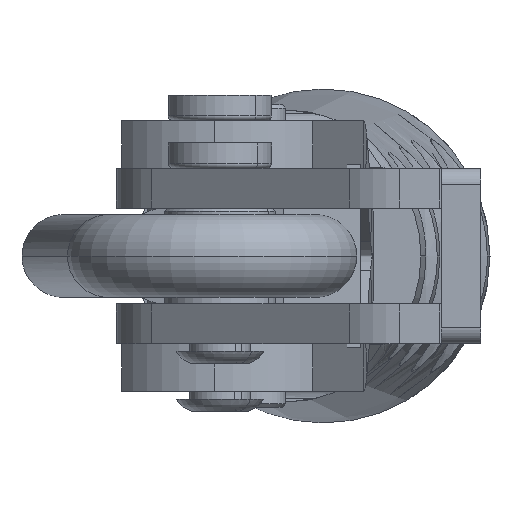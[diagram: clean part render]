
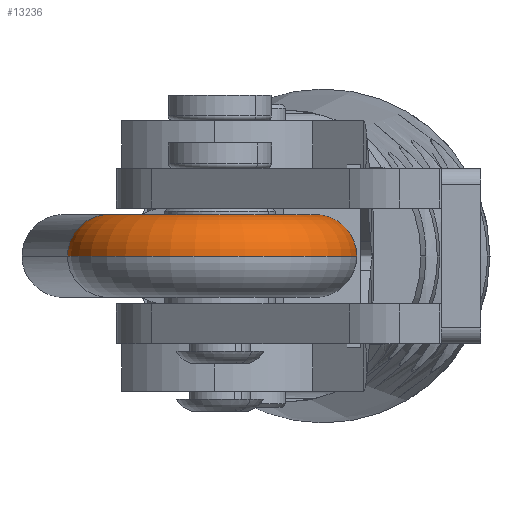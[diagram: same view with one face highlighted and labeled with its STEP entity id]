
A CAD part, left-side view. The second image highlights one B-rep face of the part: STEP entity #13236.
In plain terms, the highlighted toroidal (fillet/blend) face has major radius 6.5 mm and minor radius 2.6 mm.
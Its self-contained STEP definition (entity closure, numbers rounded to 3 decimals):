
#460 = CARTESIAN_POINT ( 'NONE',  ( -103.536, -27.815, 0. ) ) ;
#1427 = DIRECTION ( 'NONE',  ( 0., 0., 1. ) ) ;
#1491 = AXIS2_PLACEMENT_3D ( 'NONE', #21509, #1427, #25587 ) ;
#1510 = CIRCLE ( 'NONE', #16162, 2.6 ) ;
#2903 = CARTESIAN_POINT ( 'NONE',  ( -104.339, -25.342, 0. ) ) ;
#3091 = CARTESIAN_POINT ( 'NONE',  ( -108.356, -12.978, 0. ) ) ;
#4330 = AXIS2_PLACEMENT_3D ( 'NONE', #9369, #5454, #11325 ) ;
#4687 = CARTESIAN_POINT ( 'NONE',  ( -105.544, -21.633, 0. ) ) ;
#5454 = DIRECTION ( 'NONE',  ( 0., 0., 1. ) ) ;
#6970 = DIRECTION ( 'NONE',  ( 0.309, -0.951, 0. ) ) ;
#6975 = CIRCLE ( 'NONE', #17840, 9.1 ) ;
#7019 = VERTEX_POINT ( 'NONE', #2903 ) ;
#7562 = ORIENTED_EDGE ( 'NONE', *, *, #15799, .T. ) ;
#7726 = VERTEX_POINT ( 'NONE', #18068 ) ;
#8883 = EDGE_LOOP ( 'NONE', ( #7562, #12209, #18347, #20796 ) ) ;
#9369 = CARTESIAN_POINT ( 'NONE',  ( -105.544, -21.633, 0. ) ) ;
#10318 = DIRECTION ( 'NONE',  ( 0., 0., 1. ) ) ;
#11325 = DIRECTION ( 'NONE',  ( 1., 0., 0. ) ) ;
#12209 = ORIENTED_EDGE ( 'NONE', *, *, #19721, .T. ) ;
#12642 = DIRECTION ( 'NONE',  ( -0.309, 0.951, 0. ) ) ;
#13236 = ADVANCED_FACE ( 'NONE', ( #16453 ), #16429, .T. ) ;
#14331 = CIRCLE ( 'NONE', #17703, 2.6 ) ;
#15799 = EDGE_CURVE ( 'NONE', #16084, #24505, #14331, .T. ) ;
#16084 = VERTEX_POINT ( 'NONE', #22543 ) ;
#16162 = AXIS2_PLACEMENT_3D ( 'NONE', #460, #16462, #12642 ) ;
#16337 = DIRECTION ( 'NONE',  ( 1., 0., 0. ) ) ;
#16429 = TOROIDAL_SURFACE ( 'NONE', #4330, 6.5, 2.6 ) ;
#16453 = FACE_OUTER_BOUND ( 'NONE', #8883, .T. ) ;
#16462 = DIRECTION ( 'NONE',  ( 0.951, 0.309, 0. ) ) ;
#17703 = AXIS2_PLACEMENT_3D ( 'NONE', #21121, #20734, #6970 ) ;
#17840 = AXIS2_PLACEMENT_3D ( 'NONE', #4687, #10318, #16337 ) ;
#18068 = CARTESIAN_POINT ( 'NONE',  ( -102.732, -30.287, 0. ) ) ;
#18347 = ORIENTED_EDGE ( 'NONE', *, *, #19741, .F. ) ;
#19205 = EDGE_CURVE ( 'NONE', #16084, #7019, #20766, .T. ) ;
#19721 = EDGE_CURVE ( 'NONE', #24505, #7726, #6975, .T. ) ;
#19741 = EDGE_CURVE ( 'NONE', #7019, #7726, #1510, .T. ) ;
#20734 = DIRECTION ( 'NONE',  ( -0.951, -0.309, 0. ) ) ;
#20766 = CIRCLE ( 'NONE', #1491, 3.9 ) ;
#20796 = ORIENTED_EDGE ( 'NONE', *, *, #19205, .F. ) ;
#21121 = CARTESIAN_POINT ( 'NONE',  ( -107.553, -15.451, 0. ) ) ;
#21509 = CARTESIAN_POINT ( 'NONE',  ( -105.544, -21.633, 0. ) ) ;
#22543 = CARTESIAN_POINT ( 'NONE',  ( -106.749, -17.924, 0. ) ) ;
#24505 = VERTEX_POINT ( 'NONE', #3091 ) ;
#25587 = DIRECTION ( 'NONE',  ( 1., 0., 0. ) ) ;
